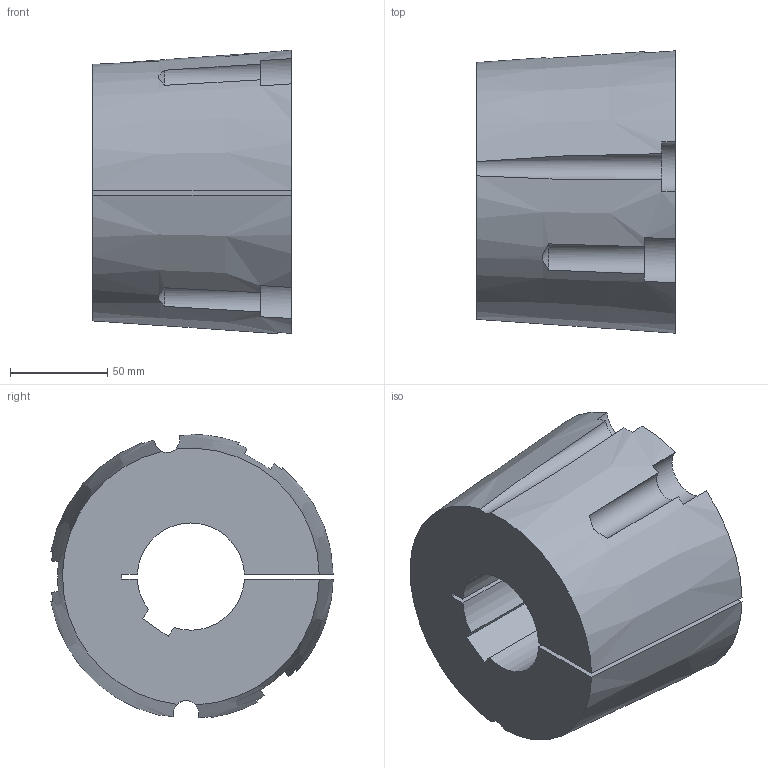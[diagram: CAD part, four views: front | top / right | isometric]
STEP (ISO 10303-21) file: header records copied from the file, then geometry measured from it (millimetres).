
FILE_DESCRIPTION( ( 'STEP AP203' ), '1' );
FILE_NAME( 'D:/export/antriebselemente/spannbuchsen_und_spannsaetze/taper-spannbuchsen_1008_bis_5050/taper-spannbuchsen_62251455Isometric_239.stp', '2018-12-11T11:11:32', ( '' ), ( '' ), ' ', 'PARTsolutions', ' ' );
FILE_SCHEMA( ( 'CONFIG_CONTROL_DESIGN' ) );
Length unit declared in the file: millimetre
Products named in the file (1): _taper-spannbuchsen_62251455
Bounding box: 102 x 144.84 x 145.4 mm (x, y, z)
Volume: 1240575.3 mm3; surface area: 100770.6 mm2
Topology: 1 solids, 1 shells, 34 faces, 96 edges, 64 vertices
Faces by surface type: plane 15, cylinder 13, cone 6
Entity records: 1310 total; most frequent: CARTESIAN_POINT 386, ORIENTED_EDGE 192, DIRECTION 186, EDGE_CURVE 96, AXIS2_PLACEMENT_3D 80, VERTEX_POINT 64, CIRCLE 45, ADVANCED_FACE 34
